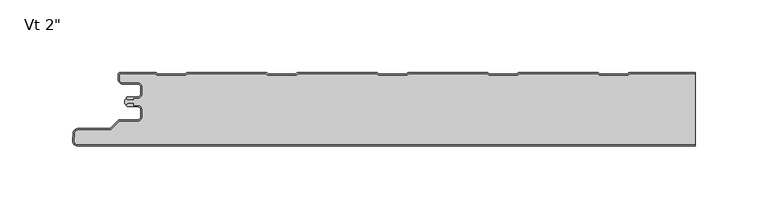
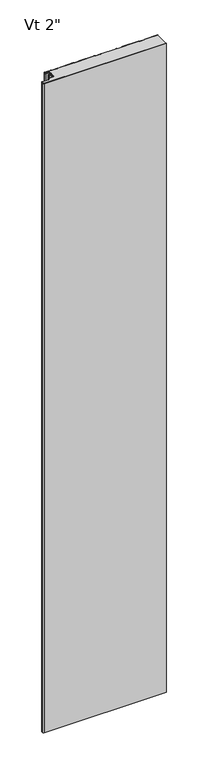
"""IFC4 building model written with IfcOpenShell, lengths in millimetres: plate geometry."""

from ifc_helpers import new_model, si_unit, point, frame, frame_2d, origin, origin_with_axes, place, context, project, spatial, polyline, circle_curve, trimmed, segment, composite_curve, outline, extrude, source, transform, mapped, element, save
from ifc_brep_helpers import plane_surface, cylinder_surface, revolved_surface, advanced_brep


def plate_15d196fd(model_context):
    return source(origin(), model_context, "Body", "SolidModel", [
        advanced_brep(
        [(-195.5683, -22.4708996, 2400.0), (-194.367176, -21.3014249, 2400.0), (-190.6087826, -21.3014249, 2400.0), (-190.6087826, -22.6999038, 2400.0), (-187.9096715, -22.6999038, 2400.0), (-184.5596762, -26.0498991, 2400.0), (-184.5596762, -30.4498903, 2400.0), (-187.9096715, -33.7998856, 2400.0), (-199.7205606, -33.7998856, 2400.0), (-200.9226383, -34.2978025, 2400.0), (-206.4247094, -39.7998736, 2400.0), (-228.5198391, -39.7998736, 2400.0), (-231.1765707, -42.0184756, 2400.0), (-231.6125697, -47.0002964, 2400.0), (-229.0521175, -49.7946214, 2400.0), (196.5999998, -49.8000246, 2400.0), (196.5999998, -1.0063689, 2400.0), (151.3798585, -1.0063689, 2400.0), (149.9942255, -2.2065996, 2400.0), (130.6190592, -2.2065996, 2400.0), (129.2334263, -1.0063689, 2400.0), (75.1800109, -1.0063689, 2400.0), (73.7943779, -2.2065996, 2400.0), (54.4192116, -2.2065996, 2400.0), (53.0335787, -1.0063689, 2400.0), (-1.0198367, -1.0063689, 2400.0), (-2.4054697, -2.2065996, 2400.0), (-21.780636, -2.2065996, 2400.0), (-23.1662689, -1.0063689, 2400.0), (-77.2196843, -1.0063689, 2400.0), (-78.6053173, -2.2065996, 2400.0), (-97.9804836, -2.2065996, 2400.0), (-99.3661165, -1.0063689, 2400.0), (-153.4195319, -1.0063689, 2400.0), (-154.8051649, -2.2065996, 2400.0), (-174.1803312, -2.2065996, 2400.0), (-175.5659738, -1.0063606, 2400.0), (-200.0662504, -1.0063606, 2400.0), (-200.0662504, -5.2379079, 2400.0), (-198.2962562, -7.007902, 2400.0), (-187.8762777, -7.007902, 2400.0), (-184.5762818, -10.3078979, 2400.0), (-184.5762818, -14.7078891, 2400.0), (-187.8762775, -18.0078848, 2400.0), (-190.5684873, -18.0078848, 2400.0), (-190.5684873, -19.0078794, 2400.0), (-194.568691, -19.0078794, 2400.0), (-195.5686882, -18.0078881, 2400.0), (-196.5999998, -19.0391998, 2400.0), (-196.5999998, -21.4391997, 2400.0), (-195.5683, -22.4708996, 0.0), (-196.5999998, -21.4391997, 0.0), (-196.5999998, -19.0391998, 0.0), (-195.5686882, -18.0078881, 0.0), (-194.568691, -19.0078794, 0.0), (-190.5684873, -19.0078794, 0.0), (-190.5684873, -18.0078848, 0.0), (-187.8762775, -18.0078848, 0.0), (-184.5762818, -14.7078891, 0.0), (-184.5762818, -10.3078979, 0.0), (-187.8762777, -7.007902, 0.0), (-198.2962562, -7.007902, 0.0), (-200.0662504, -5.2379079, 0.0), (-200.0662504, -1.0063606, 0.0), (-175.5659738, -1.0063606, 0.0), (-174.1803312, -2.2065996, 0.0), (-154.8051649, -2.2065996, 0.0), (-153.4195319, -1.0063689, 0.0), (-99.3661165, -1.0063689, 0.0), (-97.9804836, -2.2065996, 0.0), (-78.6053173, -2.2065996, 0.0), (-77.2196843, -1.0063689, 0.0), (-23.1662689, -1.0063689, 0.0), (-21.780636, -2.2065996, 0.0), (-2.4054697, -2.2065996, 0.0), (-1.0198367, -1.0063689, 0.0), (53.0335787, -1.0063689, 0.0), (54.4192116, -2.2065996, 0.0), (73.7943779, -2.2065996, 0.0), (75.1800109, -1.0063689, 0.0), (129.2334263, -1.0063689, 0.0), (130.6190592, -2.2065996, 0.0), (149.9942255, -2.2065996, 0.0), (151.3798585, -1.0063689, 0.0), (196.5999998, -1.0063689, 0.0), (196.5999998, -49.8000246, 0.0), (-229.0521175, -49.8000246, 0.0), (-231.6125697, -47.0002964, 0.0), (-231.1765707, -42.0184756, 0.0), (-228.5198391, -39.7998736, 0.0), (-206.4247094, -39.7998736, 0.0), (-200.9226383, -34.2978025, 0.0), (-199.7205606, -33.7998856, 0.0), (-187.9096715, -33.7998856, 0.0), (-184.5596762, -30.4498903, 0.0), (-184.5596762, -26.0498991, 0.0), (-187.9096715, -22.6999038, 0.0), (-190.6087826, -22.6999038, 0.0), (-190.6087826, -21.3014249, 0.0), (-194.367176, -21.3014249, 0.0)],
        [
            (0, 1, circle_curve(frame((-194.3686906, -22.5014215, 2400.0), z_axis=(0.0, 0.0, -1.0), x_axis=(-1.0, 0.0, 0.0)), 1.1999976)),
            (1, 2),
            (2, 3),
            (3, 4),
            (4, 5, circle_curve(frame((-187.9096715, -26.0498991, 2400.0), z_axis=(0.0, 0.0, -1.0), x_axis=(-1.0, 0.0, 0.0)), 3.3499953)),
            (5, 6),
            (6, 7, circle_curve(frame((-187.9096715, -30.4498903, 2400.0), z_axis=(0.0, 0.0, -1.0), x_axis=(-1.0, 0.0, 0.0)), 3.3499953)),
            (7, 8),
            (8, 9, circle_curve(frame((-199.7205606, -35.4998802, 2400.0), z_axis=(0.0, 0.0, 1.0), x_axis=(-1.0, 0.0, 0.0)), 1.6999946)),
            (9, 10),
            (10, 11),
            (11, 12, circle_curve(frame((-228.5198391, -42.4998662, 2400.0), z_axis=(0.0, 0.0, 1.0), x_axis=(-1.0, 0.0, 0.0)), 2.6999926)),
            (12, 13),
            (13, 14, circle_curve(frame((-229.0521175, -47.2243821, 2400.0), z_axis=(0.0, 0.0, 1.0), x_axis=(-1.0, 0.0, 0.0)), 2.5702393)),
            (14, 15),
            (15, 16),
            (16, 17),
            (17, 18),
            (18, 19),
            (19, 20),
            (20, 21),
            (21, 22),
            (22, 23),
            (23, 24),
            (24, 25),
            (25, 26),
            (26, 27),
            (27, 28),
            (28, 29),
            (29, 30),
            (30, 31),
            (31, 32),
            (32, 33),
            (33, 34),
            (34, 35),
            (35, 36),
            (36, 37),
            (37, 38),
            (38, 39, circle_curve(frame((-198.2962562, -5.2379079, 2400.0), z_axis=(0.0, 0.0, 1.0), x_axis=(-1.0, 0.0, 0.0)), 1.7699942)),
            (39, 40),
            (40, 41, circle_curve(frame((-187.8762777, -10.3078979, 2400.0), z_axis=(0.0, 0.0, -1.0), x_axis=(-1.0, 0.0, 0.0)), 3.2999959)),
            (41, 42),
            (42, 43, circle_curve(frame((-187.8762775, -14.7078891, 2400.0), z_axis=(0.0, 0.0, -1.0), x_axis=(-1.0, 0.0, 0.0)), 3.2999957)),
            (43, 44),
            (44, 45),
            (45, 46),
            (46, 47, circle_curve(frame((-194.568691, -18.0078822, 2400.0), z_axis=(0.0, 0.0, -1.0), x_axis=(-1.0, 0.0, 0.0)), 0.9999972)),
            (47, 48),
            (48, 49),
            (49, 0),
            (50, 51),
            (51, 52),
            (52, 53),
            (53, 54, circle_curve(frame((-194.568691, -18.0078822, 0.0), z_axis=(0.0, 0.0, 1.0), x_axis=(-1.0, 0.0, 0.0)), 0.9999972)),
            (54, 55),
            (55, 56),
            (56, 57),
            (57, 58, circle_curve(frame((-187.8762775, -14.7078891, 0.0), z_axis=(0.0, 0.0, 1.0), x_axis=(-1.0, 0.0, 0.0)), 3.2999957)),
            (58, 59),
            (59, 60, circle_curve(frame((-187.8762777, -10.3078979, 0.0), z_axis=(0.0, 0.0, 1.0), x_axis=(-1.0, 0.0, 0.0)), 3.2999959)),
            (60, 61),
            (61, 62, circle_curve(frame((-198.2962562, -5.2379079, 0.0), z_axis=(0.0, 0.0, -1.0), x_axis=(-1.0, 0.0, 0.0)), 1.7699942)),
            (62, 63),
            (63, 64),
            (64, 65),
            (65, 66),
            (66, 67),
            (67, 68),
            (68, 69),
            (69, 70),
            (70, 71),
            (71, 72),
            (72, 73),
            (73, 74),
            (74, 75),
            (75, 76),
            (76, 77),
            (77, 78),
            (78, 79),
            (79, 80),
            (80, 81),
            (81, 82),
            (82, 83),
            (83, 84),
            (84, 85),
            (85, 86),
            (86, 87, circle_curve(frame((-229.0521175, -47.2243821, 0.0), z_axis=(0.0, 0.0, -1.0), x_axis=(-1.0, 0.0, 0.0)), 2.5702393)),
            (87, 88),
            (88, 89, circle_curve(frame((-228.5198391, -42.4998662, 0.0), z_axis=(0.0, 0.0, -1.0), x_axis=(-1.0, 0.0, 0.0)), 2.6999926)),
            (89, 90),
            (90, 91),
            (91, 92, circle_curve(frame((-199.7205606, -35.4998802, 0.0), z_axis=(0.0, 0.0, -1.0), x_axis=(-1.0, 0.0, 0.0)), 1.6999946)),
            (92, 93),
            (93, 94, circle_curve(frame((-187.9096715, -30.4498903, 0.0), z_axis=(0.0, 0.0, 1.0), x_axis=(-1.0, 0.0, 0.0)), 3.3499953)),
            (94, 95),
            (95, 96, circle_curve(frame((-187.9096715, -26.0498991, 0.0), z_axis=(0.0, 0.0, 1.0), x_axis=(-1.0, 0.0, 0.0)), 3.3499953)),
            (96, 97),
            (97, 98),
            (98, 99),
            (99, 50, circle_curve(frame((-194.3686906, -22.5014215, 0.0), z_axis=(0.0, 0.0, 1.0), x_axis=(-1.0, 0.0, 0.0)), 1.1999976)),
            (49, 51),
            (50, 0),
            (48, 52),
            (47, 53),
            (46, 54),
            (45, 55),
            (44, 56),
            (43, 57),
            (42, 58),
            (41, 59),
            (40, 60),
            (39, 61),
            (38, 62),
            (37, 63),
            (4, 96),
            (95, 5),
            (3, 97),
            (2, 98),
            (1, 99),
            (15, 85),
            (84, 16),
            (94, 6),
            (14, 86),
            (13, 87),
            (12, 88),
            (11, 89),
            (10, 90),
            (9, 91),
            (8, 92),
            (7, 93),
            (36, 64),
            (35, 65),
            (34, 66),
            (33, 67),
            (32, 68),
            (31, 69),
            (30, 70),
            (29, 71),
            (28, 72),
            (27, 73),
            (26, 74),
            (25, 75),
            (24, 76),
            (23, 77),
            (22, 78),
            (21, 79),
            (20, 80),
            (19, 81),
            (18, 82),
            (17, 83),
        ],
        [
            plane_surface(frame((336.8000002, -49.8000246, 2400.0), z_axis=(0.0, 0.0, 1.0), x_axis=(0.0, -1.0, 0.0))),
            plane_surface(frame((336.8000002, -49.8000246, 0.0), z_axis=(0.0, 0.0, -1.0), x_axis=(0.0, -1.0, 0.0))),
            plane_surface(frame((-195.5683, -22.4708996, 2400.0), z_axis=(-0.7071067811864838, -0.7071067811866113, 0.0), x_axis=(0.0, 0.0, -1.0))),
            plane_surface(frame((-196.5999998, -21.4391997, 2400.0), z_axis=(-1.0, 0.0, 0.0), x_axis=(0.0, 0.0, -1.0))),
            plane_surface(frame((-196.5999998, -19.0391998, 2400.0), z_axis=(-0.7071067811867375, 0.7071067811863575, 0.0), x_axis=(0.0, 0.0, -1.0))),
            revolved_surface(polyline([(-195.5686882, -18.0078822, 0.0), (-195.5686882, -18.0078822, 2400.0)]), (-194.568691, -18.0078822, 2400.0), (0.0, 0.0, -1.0)),
            plane_surface(frame((-194.568691, -19.0078794, 2400.0), z_axis=(0.0, 1.0, 0.0), x_axis=(0.0, 0.0, -1.0))),
            plane_surface(frame((-190.5684873, -19.0078794, 2400.0), z_axis=(-1.0, 0.0, 0.0), x_axis=(0.0, 0.0, -1.0))),
            plane_surface(frame((-190.5684873, -18.0078848, 2400.0), z_axis=(0.0, 1.0, 0.0), x_axis=(0.0, 0.0, -1.0))),
            revolved_surface(polyline([(-191.1762732, -14.7078891, 0.0), (-191.1762732, -14.7078891, 2400.0)]), (-187.8762775, -14.7078891, 2400.0), (0.0, 0.0, -1.0)),
            plane_surface(frame((-184.5762818, -14.7078891, 2400.0), z_axis=(-1.0, 0.0, 0.0), x_axis=(0.0, 0.0, -1.0))),
            revolved_surface(polyline([(-191.1762736, -10.3078979, 0.0), (-191.1762736, -10.3078979, 2400.0)]), (-187.8762777, -10.3078979, 2400.0), (0.0, 0.0, -1.0)),
            plane_surface(frame((-187.8762777, -7.007902, 2400.0), z_axis=(0.0, -1.0, 0.0), x_axis=(0.0, 0.0, -1.0))),
            cylinder_surface(frame((-198.2962562, -5.2379079, 2400.0), z_axis=(0.0, 0.0, 1.0), x_axis=(-1.0, 0.0, 0.0)), 1.7699942),
            plane_surface(frame((-200.0662504, -5.2379079, 2400.0), z_axis=(-1.0, 0.0, 0.0), x_axis=(0.0, 0.0, -1.0))),
            revolved_surface(polyline([(-191.2596668, -26.0498991, 0.0), (-191.2596668, -26.0498991, 2400.0)]), (-187.9096715, -26.0498991, 2400.0), (0.0, 0.0, -1.0)),
            plane_surface(frame((-187.9096715, -22.6999038, 2400.0), z_axis=(0.0, -1.0, 0.0), x_axis=(0.0, 0.0, -1.0))),
            plane_surface(frame((-190.6087826, -22.6999038, 2400.0), z_axis=(-1.0, 0.0, 0.0), x_axis=(0.0, 0.0, -1.0))),
            plane_surface(frame((-190.6087826, -21.3014249, 2400.0), z_axis=(0.0, -1.0, 0.0), x_axis=(0.0, 0.0, -1.0))),
            revolved_surface(polyline([(-195.5686882, -22.5014215, 0.0), (-195.5686882, -22.5014215, 2400.0)]), (-194.3686906, -22.5014215, 2400.0), (0.0, 0.0, -1.0)),
            plane_surface(frame((196.5999998, -60.8000246, 2400.0), z_axis=(1.0, 0.0, 0.0), x_axis=(0.0, 0.0, -1.0))),
            plane_surface(frame((-184.5596762, -30.4498903, 2400.0), z_axis=(-1.0, 0.0, 0.0), x_axis=(0.0, 0.0, -1.0))),
            plane_surface(frame((821.7156235, -49.8000246, 2400.0), z_axis=(0.0, -1.0, 0.0), x_axis=(0.0, 0.0, -1.0))),
            cylinder_surface(frame((-229.0521175, -47.2243821, 2400.0), z_axis=(0.0, 0.0, 1.0), x_axis=(-1.0, 0.0, 0.0)), 2.5702393),
            plane_surface(frame((-231.6125697, -47.0002964, 2400.0), z_axis=(-0.9961921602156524, 0.08718474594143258, 0.0), x_axis=(0.0, 0.0, -1.0))),
            cylinder_surface(frame((-228.5198391, -42.4998662, 2400.0), z_axis=(0.0, 0.0, 1.0), x_axis=(-1.0, 0.0, 0.0)), 2.6999926),
            plane_surface(frame((-228.5198391, -39.7998736, 2400.0), z_axis=(0.0, 1.0, 0.0), x_axis=(0.0, 0.0, -1.0))),
            plane_surface(frame((-206.4247094, -39.7998736, 2400.0), z_axis=(-0.7071067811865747, 0.7071067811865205, 0.0), x_axis=(0.0, 0.0, -1.0))),
            cylinder_surface(frame((-199.7205606, -35.4998802, 2400.0), z_axis=(0.0, 0.0, 1.0), x_axis=(-1.0, 0.0, 0.0)), 1.6999946),
            plane_surface(frame((-199.7205606, -33.7998856, 2400.0), z_axis=(0.0, 1.0, 0.0), x_axis=(0.0, 0.0, -1.0))),
            revolved_surface(polyline([(-191.2596668, -30.4498903, 0.0), (-191.2596668, -30.4498903, 2400.0)]), (-187.9096715, -30.4498903, 2400.0), (0.0, 0.0, -1.0)),
            plane_surface(frame((-200.0662504, -1.0063606, 2400.0), z_axis=(0.0, 1.0, 0.0), x_axis=(0.0, 0.0, -1.0))),
            plane_surface(frame((-175.5659738, -1.0063606, 2400.0), z_axis=(0.6547276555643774, 0.7558648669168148, 0.0), x_axis=(0.0, 0.0, -1.0))),
            plane_surface(frame((-174.1803312, -2.2065996, 2400.0), z_axis=(0.0, 1.0, 0.0), x_axis=(0.0, 0.0, -1.0))),
            plane_surface(frame((-154.8051649, -2.2065996, 2400.0), z_axis=(-0.6547276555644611, 0.7558648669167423, 0.0), x_axis=(0.0, 0.0, -1.0))),
            plane_surface(frame((-153.4195319, -1.0063689, 2400.0), z_axis=(0.0, 1.0, 0.0), x_axis=(0.0, 0.0, -1.0))),
            plane_surface(frame((-99.3661165, -1.0063689, 2400.0), z_axis=(0.6547276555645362, 0.7558648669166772, 0.0), x_axis=(0.0, 0.0, -1.0))),
            plane_surface(frame((-97.9804836, -2.2065996, 2400.0), z_axis=(0.0, 1.0, 0.0), x_axis=(0.0, 0.0, -1.0))),
            plane_surface(frame((-78.6053173, -2.2065996, 2400.0), z_axis=(-0.6547276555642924, 0.7558648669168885, 0.0), x_axis=(0.0, 0.0, -1.0))),
            plane_surface(frame((-77.2196843, -1.0063689, 2400.0), z_axis=(0.0, 1.0, 0.0), x_axis=(0.0, 0.0, -1.0))),
            plane_surface(frame((-23.1662689, -1.0063689, 2400.0), z_axis=(0.654727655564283, 0.7558648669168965, 0.0), x_axis=(0.0, 0.0, -1.0))),
            plane_surface(frame((-21.780636, -2.2065996, 2400.0), z_axis=(0.0, 1.0, 0.0), x_axis=(0.0, 0.0, -1.0))),
            plane_surface(frame((-2.4054697, -2.2065996, 2400.0), z_axis=(-0.6547276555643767, 0.7558648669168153, 0.0), x_axis=(0.0, 0.0, -1.0))),
            plane_surface(frame((-1.0198367, -1.0063689, 2400.0), z_axis=(0.0, 1.0, 0.0), x_axis=(0.0, 0.0, -1.0))),
            plane_surface(frame((53.0335787, -1.0063689, 2400.0), z_axis=(0.6547276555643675, 0.7558648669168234, 0.0), x_axis=(0.0, 0.0, -1.0))),
            plane_surface(frame((54.4192116, -2.2065996, 2400.0), z_axis=(0.0, 1.0, 0.0), x_axis=(0.0, 0.0, -1.0))),
            plane_surface(frame((73.7943779, -2.2065996, 2400.0), z_axis=(-0.6547276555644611, 0.7558648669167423, 0.0), x_axis=(0.0, 0.0, -1.0))),
            plane_surface(frame((75.1800109, -1.0063689, 2400.0), z_axis=(0.0, 1.0, 0.0), x_axis=(0.0, 0.0, -1.0))),
            plane_surface(frame((129.2334263, -1.0063689, 2400.0), z_axis=(0.6547276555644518, 0.7558648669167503, 0.0), x_axis=(0.0, 0.0, -1.0))),
            plane_surface(frame((130.6190592, -2.2065996, 2400.0), z_axis=(0.0, 1.0, 0.0), x_axis=(0.0, 0.0, -1.0))),
            plane_surface(frame((149.9942255, -2.2065996, 2400.0), z_axis=(-0.6547276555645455, 0.7558648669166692, 0.0), x_axis=(0.0, 0.0, -1.0))),
            plane_surface(frame((151.3798585, -1.0063689, 2400.0), z_axis=(0.0, 1.0, 0.0), x_axis=(0.0, 0.0, -1.0))),
        ],
        [
            (0, [[1, 2, 3, 4, 5, 6, 7, 8, 9, 10, 11, 12, 13, 14, 15, 16, 17, 18, 19, 20, 21, 22, 23, 24, 25, 26, 27, 28, 29, 30, 31, 32, 33, 34, 35, 36, 37, 38, 39, 40, 41, 42, 43, 44, 45, 46, 47, 48, 49, 50]]),
            (1, [[51, 52, 53, 54, 55, 56, 57, 58, 59, 60, 61, 62, 63, 64, 65, 66, 67, 68, 69, 70, 71, 72, 73, 74, 75, 76, 77, 78, 79, 80, 81, 82, 83, 84, 85, 86, 87, 88, 89, 90, 91, 92, 93, 94, 95, 96, 97, 98, 99, 100]]),
            (2, [[101, -51, 102, -50]]),
            (3, [[103, -52, -101, -49]]),
            (4, [[104, -53, -103, -48]]),
            (5, [[105, -54, -104, -47]]),
            (6, [[106, -55, -105, -46]]),
            (7, [[107, -56, -106, -45]]),
            (8, [[108, -57, -107, -44]]),
            (9, [[109, -58, -108, -43]]),
            (10, [[110, -59, -109, -42]]),
            (11, [[111, -60, -110, -41]]),
            (12, [[112, -61, -111, -40]]),
            (13, [[113, -62, -112, -39]]),
            (14, [[114, -63, -113, -38]]),
            (15, [[115, -96, 116, -5]]),
            (16, [[117, -97, -115, -4]]),
            (17, [[118, -98, -117, -3]]),
            (18, [[119, -99, -118, -2]]),
            (19, [[-102, -100, -119, -1]]),
            (20, [[120, -85, 121, -16]]),
            (21, [[-116, -95, 122, -6]]),
            (22, [[-86, -120, -15, 123]]),
            (23, [[124, -87, -123, -14]]),
            (24, [[125, -88, -124, -13]]),
            (25, [[126, -89, -125, -12]]),
            (26, [[127, -90, -126, -11]]),
            (27, [[128, -91, -127, -10]]),
            (28, [[129, -92, -128, -9]]),
            (29, [[130, -93, -129, -8]]),
            (30, [[-122, -94, -130, -7]]),
            (31, [[131, -64, -114, -37]]),
            (32, [[132, -65, -131, -36]]),
            (33, [[133, -66, -132, -35]]),
            (34, [[134, -67, -133, -34]]),
            (35, [[135, -68, -134, -33]]),
            (36, [[136, -69, -135, -32]]),
            (37, [[137, -70, -136, -31]]),
            (38, [[138, -71, -137, -30]]),
            (39, [[139, -72, -138, -29]]),
            (40, [[140, -73, -139, -28]]),
            (41, [[141, -74, -140, -27]]),
            (42, [[142, -75, -141, -26]]),
            (43, [[143, -76, -142, -25]]),
            (44, [[144, -77, -143, -24]]),
            (45, [[145, -78, -144, -23]]),
            (46, [[146, -79, -145, -22]]),
            (47, [[147, -80, -146, -21]]),
            (48, [[148, -81, -147, -20]]),
            (49, [[149, -82, -148, -19]]),
            (50, [[150, -83, -149, -18]]),
            (51, [[-17, -121, -84, -150]]),
        ],
    ),
        advanced_brep(
        [(-194.568691, -17.0015405, 2400.0), (-195.5686883, -18.0015437, 2400.0), (-194.568691, -19.0015351, 2400.0), (-190.5684874, -19.0015351, 2400.0), (-190.5684874, -18.0015405, 2400.0), (-187.8762776, -18.0015405, 2400.0), (-184.5762819, -14.7015449, 2400.0), (-184.5762819, -10.3015536, 2400.0), (-187.8762774, -7.0015581, 2400.0), (-198.2962563, -7.0015581, 2400.0), (-200.0662505, -5.2315639, 2400.0), (-200.0662505, -1.0000163, 2400.0), (-175.5659738, -1.0000163, 2400.0), (-174.1803312, -2.2002553, 2400.0), (-154.8051649, -2.2002553, 2400.0), (-153.419532, -1.0000246, 2400.0), (-99.3661166, -1.0000246, 2400.0), (-97.9804836, -2.2002553, 2400.0), (-78.6053173, -2.2002553, 2400.0), (-77.2196844, -1.0000246, 2400.0), (-23.166269, -1.0000246, 2400.0), (-21.780636, -2.2002553, 2400.0), (-2.4054697, -2.2002553, 2400.0), (-1.0198368, -1.0000246, 2400.0), (53.0335786, -1.0000246, 2400.0), (54.4192116, -2.2002553, 2400.0), (73.7943779, -2.2002553, 2400.0), (75.1800108, -1.0000246, 2400.0), (129.2334262, -1.0000246, 2400.0), (130.6190592, -2.2002553, 2400.0), (149.9942255, -2.2002553, 2400.0), (151.3798584, -1.0000246, 2400.0), (196.5999998, -1.0000246, 2400.0), (196.5999998, -2.46e-05, 2400.0), (151.5290096, -2.46e-05, 2400.0), (150.6123927, -0.3418131, 2400.0), (149.6213451, -1.2002553, 2400.0), (130.9919396, -1.2002553, 2400.0), (130.000892, -0.3418131, 2400.0), (129.0842751, -2.46e-05, 2400.0), (75.329162, -2.46e-05, 2400.0), (74.4125451, -0.3418131, 2400.0), (73.4214975, -1.2002553, 2400.0), (54.792092, -1.2002553, 2400.0), (53.8010444, -0.3418131, 2400.0), (52.8844275, -2.46e-05, 2400.0), (-0.8706856, -2.46e-05, 2400.0), (-1.7873025, -0.3418131, 2400.0), (-2.7783501, -1.2002553, 2400.0), (-21.4077556, -1.2002553, 2400.0), (-22.3988032, -0.3418131, 2400.0), (-23.3154201, -2.46e-05, 2400.0), (-77.0705332, -2.46e-05, 2400.0), (-77.9871501, -0.3418131, 2400.0), (-78.9781977, -1.2002553, 2400.0), (-97.6076032, -1.2002553, 2400.0), (-98.5986508, -0.3418131, 2400.0), (-99.5152677, -2.46e-05, 2400.0), (-153.2703808, -2.46e-05, 2400.0), (-154.1869977, -0.3418131, 2400.0), (-155.1780453, -1.2002553, 2400.0), (-173.8074508, -1.2002553, 2400.0), (-174.7984984, -0.3418131, 2400.0), (-175.7152067, -2.46e-05, 2400.0), (-199.6662543, -1.63e-05, 2400.0), (-201.0662505, -1.4000124, 2400.0), (-201.0662505, -5.2315639, 2400.0), (-198.2962563, -8.0015581, 2400.0), (-187.8762774, -8.0015581, 2400.0), (-185.5762819, -10.3015536, 2400.0), (-185.5762819, -14.7015449, 2400.0), (-187.8762776, -17.0015405, 2400.0), (-194.568691, -17.0015405, 0.0), (-187.8762776, -17.0015405, 0.0), (-185.5762819, -14.7015449, 0.0), (-185.5762819, -10.3015536, 0.0), (-187.8762774, -8.0015581, 0.0), (-198.2962563, -8.0015581, 0.0), (-201.0662505, -5.2315639, 0.0), (-201.0662505, -1.4000124, 0.0), (-199.6662543, -1.63e-05, 0.0), (-175.7151153, -1.63e-05, 0.0), (-174.7984984, -0.3418131, 0.0), (-173.8074508, -1.2002553, 0.0), (-155.1780453, -1.2002553, 0.0), (-154.1869977, -0.3418131, 0.0), (-153.2703808, -2.46e-05, 0.0), (-99.5152677, -2.46e-05, 0.0), (-98.5986508, -0.3418131, 0.0), (-97.6076032, -1.2002553, 0.0), (-78.9781977, -1.2002553, 0.0), (-77.9871501, -0.3418131, 0.0), (-77.0705332, -2.46e-05, 0.0), (-23.3154201, -2.46e-05, 0.0), (-22.3988032, -0.3418131, 0.0), (-21.4077556, -1.2002553, 0.0), (-2.7783501, -1.2002553, 0.0), (-1.7873025, -0.3418131, 0.0), (-0.8706856, -2.46e-05, 0.0), (52.8844275, -2.46e-05, 0.0), (53.8010444, -0.3418131, 0.0), (54.792092, -1.2002553, 0.0), (73.4214975, -1.2002553, 0.0), (74.4125451, -0.3418131, 0.0), (75.329162, -2.46e-05, 0.0), (129.0842751, -2.46e-05, 0.0), (130.000892, -0.3418131, 0.0), (130.9919396, -1.2002553, 0.0), (149.6213451, -1.2002553, 0.0), (150.6123927, -0.3418131, 0.0), (151.5290096, -2.46e-05, 0.0), (196.5999998, -2.46e-05, 0.0), (196.5999998, -1.0000246, 0.0), (151.3798584, -1.0000246, 0.0), (149.9942255, -2.2002553, 0.0), (130.6190592, -2.2002553, 0.0), (129.2334262, -1.0000246, 0.0), (75.1800108, -1.0000246, 0.0), (73.7943779, -2.2002553, 0.0), (54.4192116, -2.2002553, 0.0), (53.0335786, -1.0000246, 0.0), (-1.0198368, -1.0000246, 0.0), (-2.4054697, -2.2002553, 0.0), (-21.780636, -2.2002553, 0.0), (-23.166269, -1.0000246, 0.0), (-77.2196844, -1.0000246, 0.0), (-78.6053173, -2.2002553, 0.0), (-97.9804836, -2.2002553, 0.0), (-99.3661166, -1.0000246, 0.0), (-153.419532, -1.0000246, 0.0), (-154.8051649, -2.2002553, 0.0), (-174.1803312, -2.2002553, 0.0), (-175.5659738, -1.0000163, 0.0), (-200.0662505, -1.0000163, 0.0), (-200.0662505, -5.2315639, 0.0), (-198.2962563, -7.0015581, 0.0), (-187.8762774, -7.0015581, 0.0), (-184.5762819, -10.3015536, 0.0), (-184.5762819, -14.7015449, 0.0), (-187.8762776, -18.0015405, 0.0), (-190.5684874, -18.0015405, 0.0), (-190.5684874, -19.0015351, 0.0), (-194.568691, -19.0015351, 0.0), (-195.5686882, -18.0015438, 0.0)],
        [
            (0, 1, circle_curve(frame((-194.568691, -18.0015378, 2400.0), z_axis=(0.0, 0.0, 1.0), x_axis=(1.0, 0.0, 0.0)), 0.9999973)),
            (1, 2, circle_curve(frame((-194.568691, -18.0015379, 2400.0), z_axis=(0.0, 0.0, 1.0), x_axis=(1.0, 0.0, 0.0)), 0.9999972)),
            (2, 3),
            (3, 4),
            (4, 5),
            (5, 6, circle_curve(frame((-187.8762776, -14.7015449, 2400.0), z_axis=(0.0, 0.0, 1.0), x_axis=(1.0, 0.0, 0.0)), 3.2999957)),
            (6, 7),
            (7, 8, circle_curve(frame((-187.8762774, -10.3015536, 2400.0), z_axis=(0.0, 0.0, 1.0), x_axis=(1.0, 0.0, 0.0)), 3.2999955)),
            (8, 9),
            (9, 10, circle_curve(frame((-198.2962563, -5.2315639, 2400.0), z_axis=(0.0, 0.0, -1.0), x_axis=(1.0, 0.0, 0.0)), 1.7699942)),
            (10, 11),
            (11, 12),
            (12, 13),
            (13, 14),
            (14, 15),
            (15, 16),
            (16, 17),
            (17, 18),
            (18, 19),
            (19, 20),
            (20, 21),
            (21, 22),
            (22, 23),
            (23, 24),
            (24, 25),
            (25, 26),
            (26, 27),
            (27, 28),
            (28, 29),
            (29, 30),
            (30, 31),
            (31, 32),
            (32, 33),
            (33, 34),
            (34, 35, circle_curve(frame((151.5290096, -1.4000218, 2400.0), z_axis=(0.0, 0.0, 1.0), x_axis=(1.0, 0.0, 0.0)), 1.3999972)),
            (35, 36),
            (36, 37),
            (37, 38),
            (38, 39, circle_curve(frame((129.0842751, -1.4000218, 2400.0), z_axis=(0.0, 0.0, 1.0), x_axis=(1.0, 0.0, 0.0)), 1.3999972)),
            (39, 40),
            (40, 41, circle_curve(frame((75.329162, -1.4000218, 2400.0), z_axis=(0.0, 0.0, 1.0), x_axis=(1.0, 0.0, 0.0)), 1.3999972)),
            (41, 42),
            (42, 43),
            (43, 44),
            (44, 45, circle_curve(frame((52.8844275, -1.4000218, 2400.0), z_axis=(0.0, 0.0, 1.0), x_axis=(1.0, 0.0, 0.0)), 1.3999972)),
            (45, 46),
            (46, 47, circle_curve(frame((-0.8706856, -1.4000218, 2400.0), z_axis=(0.0, 0.0, 1.0), x_axis=(1.0, 0.0, 0.0)), 1.3999972)),
            (47, 48),
            (48, 49),
            (49, 50),
            (50, 51, circle_curve(frame((-23.3154201, -1.4000218, 2400.0), z_axis=(0.0, 0.0, 1.0), x_axis=(1.0, 0.0, 0.0)), 1.3999972)),
            (51, 52),
            (52, 53, circle_curve(frame((-77.0705332, -1.4000218, 2400.0), z_axis=(0.0, 0.0, 1.0), x_axis=(1.0, 0.0, 0.0)), 1.3999972)),
            (53, 54),
            (54, 55),
            (55, 56),
            (56, 57, circle_curve(frame((-99.5152677, -1.4000218, 2400.0), z_axis=(0.0, 0.0, 1.0), x_axis=(1.0, 0.0, 0.0)), 1.3999972)),
            (57, 58),
            (58, 59, circle_curve(frame((-153.2703808, -1.4000218, 2400.0), z_axis=(0.0, 0.0, 1.0), x_axis=(1.0, 0.0, 0.0)), 1.3999972)),
            (59, 60),
            (60, 61),
            (61, 62),
            (62, 63, circle_curve(frame((-175.7151153, -1.4000218, 2400.0), z_axis=(0.0, 0.0, 1.0), x_axis=(1.0, 0.0, 0.0)), 1.3999972)),
            (63, 64),
            (64, 65, circle_curve(frame((-199.6662543, -1.4000124, 2400.0), z_axis=(0.0, 0.0, 1.0), x_axis=(1.0, 0.0, 0.0)), 1.3999962)),
            (65, 66),
            (66, 67, circle_curve(frame((-198.2962563, -5.2315639, 2400.0), z_axis=(0.0, 0.0, 1.0), x_axis=(1.0, 0.0, 0.0)), 2.7699942)),
            (67, 68),
            (68, 69, circle_curve(frame((-187.8762774, -10.3015536, 2400.0), z_axis=(0.0, 0.0, -1.0), x_axis=(1.0, 0.0, 0.0)), 2.2999955)),
            (69, 70),
            (70, 71, circle_curve(frame((-187.8762776, -14.7015449, 2400.0), z_axis=(0.0, 0.0, -1.0), x_axis=(1.0, 0.0, 0.0)), 2.2999957)),
            (71, 0),
            (72, 73),
            (73, 74, circle_curve(frame((-187.8762776, -14.7015449, 0.0), z_axis=(0.0, 0.0, 1.0), x_axis=(1.0, 0.0, 0.0)), 2.2999957)),
            (74, 75),
            (75, 76, circle_curve(frame((-187.8762774, -10.3015536, 0.0), z_axis=(0.0, 0.0, 1.0), x_axis=(1.0, 0.0, 0.0)), 2.2999955)),
            (76, 77),
            (77, 78, circle_curve(frame((-198.2962563, -5.2315639, 0.0), z_axis=(0.0, 0.0, -1.0), x_axis=(1.0, 0.0, 0.0)), 2.7699942)),
            (78, 79),
            (79, 80, circle_curve(frame((-199.6662543, -1.4000124, 0.0), z_axis=(0.0, 0.0, -1.0), x_axis=(1.0, 0.0, 0.0)), 1.3999962)),
            (80, 81),
            (81, 82, circle_curve(frame((-175.7151153, -1.4000218, 0.0), z_axis=(0.0, 0.0, -1.0), x_axis=(1.0, 0.0, 0.0)), 1.3999972)),
            (82, 83),
            (83, 84),
            (84, 85),
            (85, 86, circle_curve(frame((-153.2703808, -1.4000218, 0.0), z_axis=(0.0, 0.0, -1.0), x_axis=(1.0, 0.0, 0.0)), 1.3999972)),
            (86, 87),
            (87, 88, circle_curve(frame((-99.5152677, -1.4000218, 0.0), z_axis=(0.0, 0.0, -1.0), x_axis=(1.0, 0.0, 0.0)), 1.3999972)),
            (88, 89),
            (89, 90),
            (90, 91),
            (91, 92, circle_curve(frame((-77.0705332, -1.4000218, 0.0), z_axis=(0.0, 0.0, -1.0), x_axis=(1.0, 0.0, 0.0)), 1.3999972)),
            (92, 93),
            (93, 94, circle_curve(frame((-23.3154201, -1.4000218, 0.0), z_axis=(0.0, 0.0, -1.0), x_axis=(1.0, 0.0, 0.0)), 1.3999972)),
            (94, 95),
            (95, 96),
            (96, 97),
            (97, 98, circle_curve(frame((-0.8706856, -1.4000218, 0.0), z_axis=(0.0, 0.0, -1.0), x_axis=(1.0, 0.0, 0.0)), 1.3999972)),
            (98, 99),
            (99, 100, circle_curve(frame((52.8844275, -1.4000218, 0.0), z_axis=(0.0, 0.0, -1.0), x_axis=(1.0, 0.0, 0.0)), 1.3999972)),
            (100, 101),
            (101, 102),
            (102, 103),
            (103, 104, circle_curve(frame((75.329162, -1.4000218, 0.0), z_axis=(0.0, 0.0, -1.0), x_axis=(1.0, 0.0, 0.0)), 1.3999972)),
            (104, 105),
            (105, 106, circle_curve(frame((129.0842751, -1.4000218, 0.0), z_axis=(0.0, 0.0, -1.0), x_axis=(1.0, 0.0, 0.0)), 1.3999972)),
            (106, 107),
            (107, 108),
            (108, 109),
            (109, 110, circle_curve(frame((151.5290096, -1.4000218, 0.0), z_axis=(0.0, 0.0, -1.0), x_axis=(1.0, 0.0, 0.0)), 1.3999972)),
            (110, 111),
            (111, 112),
            (112, 113),
            (113, 114),
            (114, 115),
            (115, 116),
            (116, 117),
            (117, 118),
            (118, 119),
            (119, 120),
            (120, 121),
            (121, 122),
            (122, 123),
            (123, 124),
            (124, 125),
            (125, 126),
            (126, 127),
            (127, 128),
            (128, 129),
            (129, 130),
            (130, 131),
            (131, 132),
            (132, 133),
            (133, 134),
            (134, 135, circle_curve(frame((-198.2962563, -5.2315639, 0.0), z_axis=(0.0, 0.0, 1.0), x_axis=(1.0, 0.0, 0.0)), 1.7699942)),
            (135, 136),
            (136, 137, circle_curve(frame((-187.8762774, -10.3015536, 0.0), z_axis=(0.0, 0.0, -1.0), x_axis=(1.0, 0.0, 0.0)), 3.2999955)),
            (137, 138),
            (138, 139, circle_curve(frame((-187.8762776, -14.7015449, 0.0), z_axis=(0.0, 0.0, -1.0), x_axis=(1.0, 0.0, 0.0)), 3.2999957)),
            (139, 140),
            (140, 141),
            (141, 142),
            (142, 143, circle_curve(frame((-194.568691, -18.0015379, 0.0), z_axis=(0.0, 0.0, -1.0), x_axis=(1.0, 0.0, 0.0)), 0.9999972)),
            (143, 72, circle_curve(frame((-194.568691, -18.0015378, 0.0), z_axis=(0.0, 0.0, -1.0), x_axis=(1.0, 0.0, 0.0)), 0.9999973)),
            (32, 112),
            (111, 33),
            (71, 73),
            (72, 0),
            (70, 74),
            (69, 75),
            (68, 76),
            (67, 77),
            (66, 78),
            (65, 79),
            (64, 80),
            (63, 81),
            (62, 82),
            (61, 83),
            (60, 84),
            (59, 85),
            (58, 86),
            (57, 87),
            (56, 88),
            (55, 89),
            (54, 90),
            (53, 91),
            (52, 92),
            (51, 93),
            (50, 94),
            (49, 95),
            (48, 96),
            (47, 97),
            (46, 98),
            (45, 99),
            (44, 100),
            (43, 101),
            (42, 102),
            (41, 103),
            (40, 104),
            (39, 105),
            (38, 106),
            (37, 107),
            (36, 108),
            (35, 109),
            (34, 110),
            (31, 113),
            (30, 114),
            (29, 115),
            (28, 116),
            (27, 117),
            (26, 118),
            (25, 119),
            (24, 120),
            (23, 121),
            (22, 122),
            (21, 123),
            (20, 124),
            (19, 125),
            (18, 126),
            (17, 127),
            (16, 128),
            (15, 129),
            (14, 130),
            (13, 131),
            (12, 132),
            (11, 133),
            (10, 134),
            (9, 135),
            (8, 136),
            (7, 137),
            (6, 138),
            (5, 139),
            (4, 140),
            (3, 141),
            (2, 142),
            (1, 143),
        ],
        [
            plane_surface(frame((336.8000002, -2.46e-05, 2400.0), z_axis=(0.0, 0.0, 1.0), x_axis=(0.0, 1.0, 0.0))),
            plane_surface(frame((336.8000002, -2.46e-05, 0.0), z_axis=(0.0, 0.0, -1.0), x_axis=(0.0, 1.0, 0.0))),
            plane_surface(frame((196.5999998, -60.8000246, 2400.0), z_axis=(1.0, 0.0, 0.0), x_axis=(0.0, 0.0, -1.0))),
            plane_surface(frame((-194.568691, -17.0015405, 2400.0), z_axis=(0.0, 1.0, 0.0), x_axis=(0.0, 0.0, -1.0))),
            revolved_surface(polyline([(-185.5762819, -14.7015449, 0.0), (-185.5762819, -14.7015449, 2400.0)]), (-187.8762776, -14.7015449, 2400.0), (0.0, 0.0, -1.0)),
            plane_surface(frame((-185.5762819, -14.7015449, 2400.0), z_axis=(-1.0, 0.0, 0.0), x_axis=(0.0, 0.0, -1.0))),
            revolved_surface(polyline([(-185.5762819, -10.3015536, 0.0), (-185.5762819, -10.3015536, 2400.0)]), (-187.8762774, -10.3015536, 2400.0), (0.0, 0.0, -1.0)),
            plane_surface(frame((-187.8762774, -8.0015581, 2400.0), z_axis=(0.0, -1.0, 0.0), x_axis=(0.0, 0.0, -1.0))),
            cylinder_surface(frame((-198.2962563, -5.2315639, 2400.0), z_axis=(0.0, 0.0, 1.0), x_axis=(1.0, 0.0, 0.0)), 2.7699942),
            plane_surface(frame((-201.0662505, -5.2315639, 2400.0), z_axis=(-1.0, 0.0, 0.0), x_axis=(0.0, 0.0, -1.0))),
            cylinder_surface(frame((-199.6662543, -1.4000124, 2400.0), z_axis=(0.0, 0.0, 1.0), x_axis=(1.0, 0.0, 0.0)), 1.3999962),
            plane_surface(frame((-199.6662543, -1.63e-05, 2400.0), z_axis=(0.0, 1.0, 0.0), x_axis=(0.0, 0.0, -1.0))),
            cylinder_surface(frame((-175.7151153, -1.4000218, 2400.0), z_axis=(0.0, 0.0, 1.0), x_axis=(1.0, 0.0, 0.0)), 1.3999972),
            plane_surface(frame((-174.7984984, -0.3418131, 2400.0), z_axis=(0.6547276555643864, 0.7558648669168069, 0.0), x_axis=(0.0, 0.0, -1.0))),
            plane_surface(frame((-164.4927481, -1.2002553, 2400.0), z_axis=(0.0, 1.0, 0.0), x_axis=(0.0, 0.0, -1.0))),
            plane_surface(frame((-155.1780453, -1.2002553, 2400.0), z_axis=(-0.6547276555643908, 0.7558648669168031, 0.0), x_axis=(0.0, 0.0, -1.0))),
            cylinder_surface(frame((-153.2703808, -1.4000218, 2400.0), z_axis=(0.0, 0.0, 1.0), x_axis=(1.0, 0.0, 0.0)), 1.3999972),
            plane_surface(frame((-153.2703808, -2.46e-05, 2400.0), z_axis=(0.0, 1.0, 0.0), x_axis=(0.0, 0.0, -1.0))),
            cylinder_surface(frame((-99.5152677, -1.4000218, 2400.0), z_axis=(0.0, 0.0, 1.0), x_axis=(1.0, 0.0, 0.0)), 1.3999972),
            plane_surface(frame((-98.5986508, -0.3418131, 2400.0), z_axis=(0.6547276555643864, 0.7558648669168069, 0.0), x_axis=(0.0, 0.0, -1.0))),
            plane_surface(frame((-88.2929005, -1.2002553, 2400.0), z_axis=(0.0, 1.0, 0.0), x_axis=(0.0, 0.0, -1.0))),
            plane_surface(frame((-78.9781977, -1.2002553, 2400.0), z_axis=(-0.6547276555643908, 0.7558648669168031, 0.0), x_axis=(0.0, 0.0, -1.0))),
            cylinder_surface(frame((-77.0705332, -1.4000218, 2400.0), z_axis=(0.0, 0.0, 1.0), x_axis=(1.0, 0.0, 0.0)), 1.3999972),
            plane_surface(frame((-77.0705332, -2.46e-05, 2400.0), z_axis=(0.0, 1.0, 0.0), x_axis=(0.0, 0.0, -1.0))),
            cylinder_surface(frame((-23.3154201, -1.4000218, 2400.0), z_axis=(0.0, 0.0, 1.0), x_axis=(1.0, 0.0, 0.0)), 1.3999972),
            plane_surface(frame((-22.3988032, -0.3418131, 2400.0), z_axis=(0.6547276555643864, 0.7558648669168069, 0.0), x_axis=(0.0, 0.0, -1.0))),
            plane_surface(frame((-12.0930529, -1.2002553, 2400.0), z_axis=(0.0, 1.0, 0.0), x_axis=(0.0, 0.0, -1.0))),
            plane_surface(frame((-2.7783501, -1.2002553, 2400.0), z_axis=(-0.6547276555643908, 0.7558648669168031, 0.0), x_axis=(0.0, 0.0, -1.0))),
            cylinder_surface(frame((-0.8706856, -1.4000218, 2400.0), z_axis=(0.0, 0.0, 1.0), x_axis=(1.0, 0.0, 0.0)), 1.3999972),
            plane_surface(frame((-0.8706856, -2.46e-05, 2400.0), z_axis=(0.0, 1.0, 0.0), x_axis=(0.0, 0.0, -1.0))),
            cylinder_surface(frame((52.8844275, -1.4000218, 2400.0), z_axis=(0.0, 0.0, 1.0), x_axis=(1.0, 0.0, 0.0)), 1.3999972),
            plane_surface(frame((53.8010444, -0.3418131, 2400.0), z_axis=(0.6547276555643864, 0.7558648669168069, 0.0), x_axis=(0.0, 0.0, -1.0))),
            plane_surface(frame((64.1067947, -1.2002553, 2400.0), z_axis=(0.0, 1.0, 0.0), x_axis=(0.0, 0.0, -1.0))),
            plane_surface(frame((73.4214975, -1.2002553, 2400.0), z_axis=(-0.6547276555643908, 0.7558648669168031, 0.0), x_axis=(0.0, 0.0, -1.0))),
            cylinder_surface(frame((75.329162, -1.4000218, 2400.0), z_axis=(0.0, 0.0, 1.0), x_axis=(1.0, 0.0, 0.0)), 1.3999972),
            plane_surface(frame((75.329162, -2.46e-05, 2400.0), z_axis=(0.0, 1.0, 0.0), x_axis=(0.0, 0.0, -1.0))),
            cylinder_surface(frame((129.0842751, -1.4000218, 2400.0), z_axis=(0.0, 0.0, 1.0), x_axis=(1.0, 0.0, 0.0)), 1.3999972),
            plane_surface(frame((130.000892, -0.3418131, 2400.0), z_axis=(0.6547276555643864, 0.7558648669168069, 0.0), x_axis=(0.0, 0.0, -1.0))),
            plane_surface(frame((140.3066423, -1.2002553, 2400.0), z_axis=(0.0, 1.0, 0.0), x_axis=(0.0, 0.0, -1.0))),
            plane_surface(frame((149.6213451, -1.2002553, 2400.0), z_axis=(-0.6547276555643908, 0.7558648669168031, 0.0), x_axis=(0.0, 0.0, -1.0))),
            cylinder_surface(frame((151.5290096, -1.4000218, 2400.0), z_axis=(0.0, 0.0, 1.0), x_axis=(1.0, 0.0, 0.0)), 1.3999972),
            plane_surface(frame((151.5290096, -2.46e-05, 2400.0), z_axis=(0.0, 1.0, 0.0), x_axis=(0.0, 0.0, -1.0))),
            plane_surface(frame((205.4332738, -1.0000246, 2400.0), z_axis=(0.0, -1.0, 0.0), x_axis=(0.0, 0.0, -1.0))),
            plane_surface(frame((151.3798584, -1.0000246, 2400.0), z_axis=(0.6547276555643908, -0.7558648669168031, 0.0), x_axis=(0.0, 0.0, -1.0))),
            plane_surface(frame((149.9942255, -2.2002553, 2400.0), z_axis=(0.0, -1.0, 0.0), x_axis=(0.0, 0.0, -1.0))),
            plane_surface(frame((130.6190592, -2.2002553, 2400.0), z_axis=(-0.6547276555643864, -0.7558648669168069, 0.0), x_axis=(0.0, 0.0, -1.0))),
            plane_surface(frame((129.2334262, -1.0000246, 2400.0), z_axis=(0.0, -1.0, 0.0), x_axis=(0.0, 0.0, -1.0))),
            plane_surface(frame((75.1800108, -1.0000246, 2400.0), z_axis=(0.6547276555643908, -0.7558648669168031, 0.0), x_axis=(0.0, 0.0, -1.0))),
            plane_surface(frame((73.7943779, -2.2002553, 2400.0), z_axis=(0.0, -1.0, 0.0), x_axis=(0.0, 0.0, -1.0))),
            plane_surface(frame((54.4192116, -2.2002553, 2400.0), z_axis=(-0.6547276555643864, -0.7558648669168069, 0.0), x_axis=(0.0, 0.0, -1.0))),
            plane_surface(frame((53.0335786, -1.0000246, 2400.0), z_axis=(0.0, -1.0, 0.0), x_axis=(0.0, 0.0, -1.0))),
            plane_surface(frame((-1.0198368, -1.0000246, 2400.0), z_axis=(0.6547276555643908, -0.7558648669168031, 0.0), x_axis=(0.0, 0.0, -1.0))),
            plane_surface(frame((-2.4054697, -2.2002553, 2400.0), z_axis=(0.0, -1.0, 0.0), x_axis=(0.0, 0.0, -1.0))),
            plane_surface(frame((-21.780636, -2.2002553, 2400.0), z_axis=(-0.6547276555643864, -0.7558648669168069, 0.0), x_axis=(0.0, 0.0, -1.0))),
            plane_surface(frame((-23.166269, -1.0000246, 2400.0), z_axis=(0.0, -1.0, 0.0), x_axis=(0.0, 0.0, -1.0))),
            plane_surface(frame((-77.2196844, -1.0000246, 2400.0), z_axis=(0.6547276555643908, -0.7558648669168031, 0.0), x_axis=(0.0, 0.0, -1.0))),
            plane_surface(frame((-78.6053173, -2.2002553, 2400.0), z_axis=(0.0, -1.0, 0.0), x_axis=(0.0, 0.0, -1.0))),
            plane_surface(frame((-97.9804836, -2.2002553, 2400.0), z_axis=(-0.6547276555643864, -0.7558648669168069, 0.0), x_axis=(0.0, 0.0, -1.0))),
            plane_surface(frame((-99.3661166, -1.0000246, 2400.0), z_axis=(0.0, -1.0, 0.0), x_axis=(0.0, 0.0, -1.0))),
            plane_surface(frame((-153.419532, -1.0000246, 2400.0), z_axis=(0.6547276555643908, -0.7558648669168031, 0.0), x_axis=(0.0, 0.0, -1.0))),
            plane_surface(frame((-154.8051649, -2.2002553, 2400.0), z_axis=(0.0, -1.0, 0.0), x_axis=(0.0, 0.0, -1.0))),
            plane_surface(frame((-174.1803312, -2.2002553, 2400.0), z_axis=(-0.6547276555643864, -0.7558648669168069, 0.0), x_axis=(0.0, 0.0, -1.0))),
            plane_surface(frame((-175.5659738, -1.0000163, 2400.0), z_axis=(0.0, -1.0, 0.0), x_axis=(0.0, 0.0, -1.0))),
            plane_surface(frame((-200.0662505, -1.0000163, 2400.0), z_axis=(1.0, 0.0, 0.0), x_axis=(0.0, 0.0, -1.0))),
            revolved_surface(polyline([(-196.5262621, -5.2315639, 0.0), (-196.5262621, -5.2315639, 2400.0)]), (-198.2962563, -5.2315639, 2400.0), (0.0, 0.0, -1.0)),
            plane_surface(frame((-198.2962563, -7.0015581, 2400.0), z_axis=(0.0, 1.0, 0.0), x_axis=(0.0, 0.0, -1.0))),
            cylinder_surface(frame((-187.8762774, -10.3015536, 2400.0), z_axis=(0.0, 0.0, 1.0), x_axis=(1.0, 0.0, 0.0)), 3.2999955),
            plane_surface(frame((-184.5762819, -10.3015536, 2400.0), z_axis=(1.0, 0.0, 0.0), x_axis=(0.0, 0.0, -1.0))),
            cylinder_surface(frame((-187.8762776, -14.7015449, 2400.0), z_axis=(0.0, 0.0, 1.0), x_axis=(1.0, 0.0, 0.0)), 3.2999957),
            plane_surface(frame((-187.8762776, -18.0015405, 2400.0), z_axis=(0.0, -1.0, 0.0), x_axis=(0.0, 0.0, -1.0))),
            plane_surface(frame((-190.5684874, -18.0015405, 2400.0), z_axis=(1.0, 0.0, 0.0), x_axis=(0.0, 0.0, -1.0))),
            plane_surface(frame((-190.5684874, -19.0015351, 2400.0), z_axis=(0.0, -1.0, 0.0), x_axis=(0.0, 0.0, -1.0))),
            cylinder_surface(frame((-194.568691, -18.0015379, 2400.0), z_axis=(0.0, 0.0, 1.0), x_axis=(1.0, 0.0, 0.0)), 0.9999972),
            cylinder_surface(frame((-194.568691, -18.0015378, 2400.0), z_axis=(0.0, 0.0, 1.0), x_axis=(1.0, 0.0, 0.0)), 0.9999973),
        ],
        [
            (0, [[1, 2, 3, 4, 5, 6, 7, 8, 9, 10, 11, 12, 13, 14, 15, 16, 17, 18, 19, 20, 21, 22, 23, 24, 25, 26, 27, 28, 29, 30, 31, 32, 33, 34, 35, 36, 37, 38, 39, 40, 41, 42, 43, 44, 45, 46, 47, 48, 49, 50, 51, 52, 53, 54, 55, 56, 57, 58, 59, 60, 61, 62, 63, 64, 65, 66, 67, 68, 69, 70, 71, 72]]),
            (1, [[73, 74, 75, 76, 77, 78, 79, 80, 81, 82, 83, 84, 85, 86, 87, 88, 89, 90, 91, 92, 93, 94, 95, 96, 97, 98, 99, 100, 101, 102, 103, 104, 105, 106, 107, 108, 109, 110, 111, 112, 113, 114, 115, 116, 117, 118, 119, 120, 121, 122, 123, 124, 125, 126, 127, 128, 129, 130, 131, 132, 133, 134, 135, 136, 137, 138, 139, 140, 141, 142, 143, 144]]),
            (2, [[145, -112, 146, -33]]),
            (3, [[147, -73, 148, -72]]),
            (4, [[149, -74, -147, -71]]),
            (5, [[150, -75, -149, -70]]),
            (6, [[151, -76, -150, -69]]),
            (7, [[152, -77, -151, -68]]),
            (8, [[153, -78, -152, -67]]),
            (9, [[154, -79, -153, -66]]),
            (10, [[155, -80, -154, -65]]),
            (11, [[156, -81, -155, -64]]),
            (12, [[157, -82, -156, -63]]),
            (13, [[158, -83, -157, -62]]),
            (14, [[159, -84, -158, -61]]),
            (15, [[160, -85, -159, -60]]),
            (16, [[161, -86, -160, -59]]),
            (17, [[162, -87, -161, -58]]),
            (18, [[163, -88, -162, -57]]),
            (19, [[164, -89, -163, -56]]),
            (20, [[165, -90, -164, -55]]),
            (21, [[166, -91, -165, -54]]),
            (22, [[167, -92, -166, -53]]),
            (23, [[168, -93, -167, -52]]),
            (24, [[169, -94, -168, -51]]),
            (25, [[170, -95, -169, -50]]),
            (26, [[171, -96, -170, -49]]),
            (27, [[172, -97, -171, -48]]),
            (28, [[173, -98, -172, -47]]),
            (29, [[174, -99, -173, -46]]),
            (30, [[175, -100, -174, -45]]),
            (31, [[176, -101, -175, -44]]),
            (32, [[177, -102, -176, -43]]),
            (33, [[178, -103, -177, -42]]),
            (34, [[179, -104, -178, -41]]),
            (35, [[180, -105, -179, -40]]),
            (36, [[181, -106, -180, -39]]),
            (37, [[182, -107, -181, -38]]),
            (38, [[183, -108, -182, -37]]),
            (39, [[184, -109, -183, -36]]),
            (40, [[185, -110, -184, -35]]),
            (41, [[-34, -146, -111, -185]]),
            (42, [[-113, -145, -32, 186]]),
            (43, [[187, -114, -186, -31]]),
            (44, [[188, -115, -187, -30]]),
            (45, [[189, -116, -188, -29]]),
            (46, [[190, -117, -189, -28]]),
            (47, [[191, -118, -190, -27]]),
            (48, [[192, -119, -191, -26]]),
            (49, [[193, -120, -192, -25]]),
            (50, [[194, -121, -193, -24]]),
            (51, [[195, -122, -194, -23]]),
            (52, [[196, -123, -195, -22]]),
            (53, [[197, -124, -196, -21]]),
            (54, [[198, -125, -197, -20]]),
            (55, [[199, -126, -198, -19]]),
            (56, [[200, -127, -199, -18]]),
            (57, [[201, -128, -200, -17]]),
            (58, [[202, -129, -201, -16]]),
            (59, [[203, -130, -202, -15]]),
            (60, [[204, -131, -203, -14]]),
            (61, [[205, -132, -204, -13]]),
            (62, [[206, -133, -205, -12]]),
            (63, [[207, -134, -206, -11]]),
            (64, [[208, -135, -207, -10]]),
            (65, [[209, -136, -208, -9]]),
            (66, [[210, -137, -209, -8]]),
            (67, [[211, -138, -210, -7]]),
            (68, [[212, -139, -211, -6]]),
            (69, [[213, -140, -212, -5]]),
            (70, [[214, -141, -213, -4]]),
            (71, [[215, -142, -214, -3]]),
            (72, [[216, -143, -215, -2]]),
            (73, [[-148, -144, -216, -1]]),
        ],
    ),
        extrude(outline(composite_curve([segment(polyline([(-232.6087619, -46.9191544), (-232.1690674, -41.8951077)]), True, "CONTINUOUS"), segment(trimmed(circle_curve(frame_2d((-228.5198391, -42.5059089)), 3.6999926), [point((-232.1690674, -41.8951077))], [point((-228.5198391, -38.8059163))], False, "CARTESIAN"), True, "CONTINUOUS"), segment(polyline([(-228.5198391, -38.8059163), (-207.3773995, -38.8059163)]), True, "CONTINUOUS"), segment(trimmed(circle_curve(frame_2d((-207.3773995, -37.5059189)), 1.2999974), [point((-207.3773995, -38.8059163))], [point((-206.4581626, -38.4251558))], True, "CARTESIAN"), True, "CONTINUOUS"), segment(polyline([(-206.4581626, -38.4251558), (-201.6297451, -33.5967384)]), True, "CONTINUOUS"), segment(trimmed(circle_curve(frame_2d((-199.7205606, -35.5059229)), 2.6999946), [point((-201.6297451, -33.5967384))], [point((-199.7205606, -32.8059283))], False, "CARTESIAN"), True, "CONTINUOUS"), segment(polyline([(-199.7205606, -32.8059283), (-187.9096715, -32.8059283)]), True, "CONTINUOUS"), segment(trimmed(circle_curve(frame_2d((-187.9096715, -30.455933)), 2.3499953), [point((-187.9096715, -32.8059283))], [point((-185.5596762, -30.455933))], True, "CARTESIAN"), True, "CONTINUOUS"), segment(polyline([(-185.5596762, -30.455933), (-185.5596762, -26.0559418)]), True, "CONTINUOUS"), segment(trimmed(circle_curve(frame_2d((-187.9096715, -26.0559418)), 2.3499953), [point((-185.5596762, -26.0559418))], [point((-187.9096715, -23.7059465))], True, "CARTESIAN"), True, "CONTINUOUS"), segment(polyline([(-187.9096715, -23.7059465), (-194.4289777, -23.7059465)]), True, "CONTINUOUS"), segment(trimmed(circle_curve(frame_2d((-194.3686906, -22.5074642)), 1.1999976), [point((-194.4289777, -23.7059465))], [point((-195.5683, -22.4769423))], False, "CARTESIAN"), True, "CONTINUOUS"), segment(trimmed(circle_curve(frame_2d((-194.3686906, -22.5074642)), 1.1999976), [point((-195.5683, -22.4769423))], [point((-194.367176, -21.3074676))], False, "CARTESIAN"), True, "CONTINUOUS"), segment(polyline([(-194.367176, -21.3074676), (-190.6087826, -21.3074676), (-190.6087826, -22.7059465), (-187.9096715, -22.7059465)]), True, "CONTINUOUS"), segment(trimmed(circle_curve(frame_2d((-187.9096715, -26.0559418)), 3.3499953), [point((-187.9096715, -22.7059465))], [point((-184.5596762, -26.0559418))], False, "CARTESIAN"), True, "CONTINUOUS"), segment(polyline([(-184.5596762, -26.0559418), (-184.5596762, -30.455933)]), True, "CONTINUOUS"), segment(trimmed(circle_curve(frame_2d((-187.9096715, -30.455933)), 3.3499953), [point((-184.5596762, -30.455933))], [point((-187.9096715, -33.8059283))], False, "CARTESIAN"), True, "CONTINUOUS"), segment(polyline([(-187.9096715, -33.8059283), (-199.7205606, -33.8059283)]), True, "CONTINUOUS"), segment(trimmed(circle_curve(frame_2d((-199.7205606, -35.5059229)), 1.6999946), [point((-199.7205606, -33.8059283))], [point((-200.9226383, -34.3038451))], True, "CARTESIAN"), True, "CONTINUOUS"), segment(polyline([(-200.9226383, -34.3038451), (-206.4247094, -39.8059163), (-228.5198391, -39.8059163)]), True, "CONTINUOUS"), segment(trimmed(circle_curve(frame_2d((-228.5198391, -42.5059089)), 2.6999926), [point((-228.5198391, -39.8059163))], [point((-231.1765707, -42.0245182))], True, "CARTESIAN"), True, "CONTINUOUS"), segment(polyline([(-231.1765707, -42.0245182), (-231.6125697, -47.0063391)]), True, "CONTINUOUS"), segment(trimmed(circle_curve(frame_2d((-229.0521175, -47.2304248)), 2.5702393), [point((-231.6125697, -47.0063391))], [point((-229.1094458, -49.8000246))], True, "CARTESIAN"), True, "CONTINUOUS"), segment(polyline([(-229.1094458, -49.8000246), (196.5999998, -49.8000246), (196.5999998, -50.8000246), (-229.1196851, -50.8000246)]), True, "CONTINUOUS"), segment(trimmed(circle_curve(frame_2d((-229.0521175, -47.2304248)), 3.5702393), [point((-229.1196851, -50.8000246))], [point((-232.6087619, -46.9191544))], False, "CARTESIAN"), True, "CONTINUOUS")], self_intersect=False)), origin_with_axes(), (0.0, 0.0, 1.0), 2400.0),
    ])


if __name__ == "__main__":
    model = new_model("IFC4")
    model_context = context("Model", 3, world=origin())
    ifc_project = project(units=[si_unit("LENGTHUNIT", "METRE", prefix="MILLI")], contexts=[model_context])
    site = spatial("IfcSite", under=ifc_project)
    building = spatial("IfcBuilding", under=site)
    placement = place(None, origin())
    plate_shape = plate_15d196fd(model_context)
    element("IfcPlate", 1, ObjectType="KIP-42-Karrier-KP-R19-CP-Vt-FL3-8in_SL : Vt 2\"", at=placement, inside=building, context=model_context, shape_type="MappedRepresentation", body=[
        mapped(plate_shape, transform((0.0, 0.0, 0.0), x_axis=(1.0, 0.0, 0.0), y_axis=(0.0, 1.0, 0.0), z_axis=(0.0, 0.0, 1.0))),
    ])
    save(model, "model.ifc")
